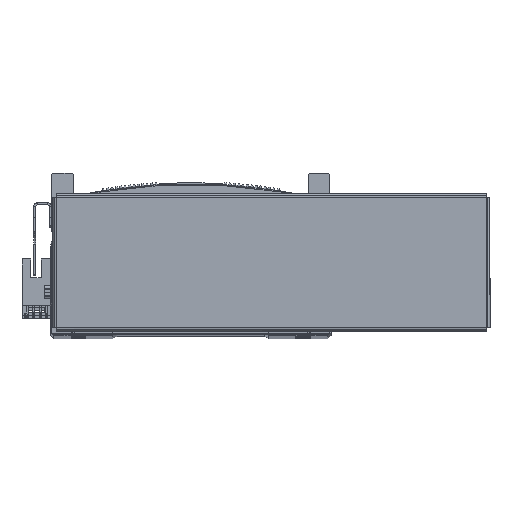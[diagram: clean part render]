
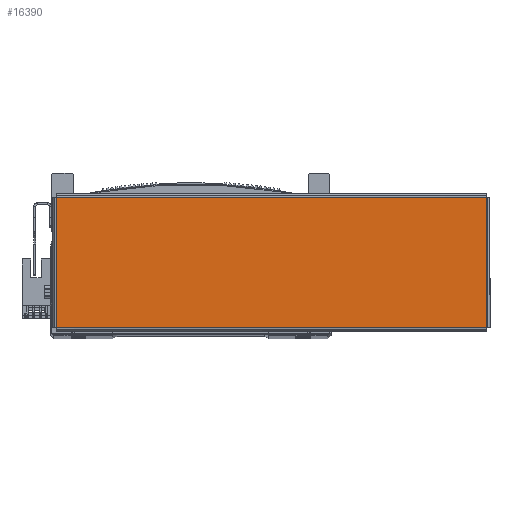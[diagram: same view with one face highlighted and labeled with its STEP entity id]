
A CAD part, top view. The second image highlights one B-rep face of the part: STEP entity #16390.
In plain terms, the highlighted planar face has unit normal (0, 0, 1) as drawn and (0, -1, 0) by its records, which use the part's own axes.
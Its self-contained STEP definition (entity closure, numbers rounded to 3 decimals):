
#522 = CARTESIAN_POINT ( 'NONE',  ( 103.513, -1., 31.363 ) ) ;
#528 = CARTESIAN_POINT ( 'NONE',  ( -103.513, -1., 31.363 ) ) ;
#535 = CARTESIAN_POINT ( 'NONE',  ( 103.513, -1., -31.363 ) ) ;
#550 = CARTESIAN_POINT ( 'NONE',  ( -103.513, -1., -31.363 ) ) ;
#14197 = EDGE_CURVE ( 'NONE', #61399, #61471, #39600, .T. ) ;
#14216 = EDGE_CURVE ( 'NONE', #61397, #61469, #39577, .T. ) ;
#14218 = EDGE_CURVE ( 'NONE', #61471, #61397, #39740, .T. ) ;
#14231 = EDGE_CURVE ( 'NONE', #61469, #61399, #39707, .T. ) ;
#16390 = ADVANCED_FACE ( 'NONE', ( #23781 ), #31383, .F. ) ;
#23781 = FACE_OUTER_BOUND ( 'NONE', #53335, .T. ) ;
#31383 = PLANE ( 'NONE',  #68461 ) ;
#31385 = DIRECTION ( 'NONE',  ( 0., 1., 0. ) ) ;
#31390 = CARTESIAN_POINT ( 'NONE',  ( 0., -1., 0. ) ) ;
#31447 = DIRECTION ( 'NONE',  ( 0., 0., 1. ) ) ;
#36503 = ORIENTED_EDGE ( 'NONE', *, *, #14197, .T. ) ;
#36551 = ORIENTED_EDGE ( 'NONE', *, *, #14218, .T. ) ;
#36567 = ORIENTED_EDGE ( 'NONE', *, *, #14216, .T. ) ;
#36578 = ORIENTED_EDGE ( 'NONE', *, *, #14231, .T. ) ;
#39545 = VECTOR ( 'NONE', #66559, 1000. ) ;
#39577 = LINE ( 'NONE', #66603, #39683 ) ;
#39600 = LINE ( 'NONE', #66558, #39545 ) ;
#39683 = VECTOR ( 'NONE', #66615, 1000. ) ;
#39690 = VECTOR ( 'NONE', #66647, 1000. ) ;
#39707 = LINE ( 'NONE', #66624, #39721 ) ;
#39721 = VECTOR ( 'NONE', #66633, 1000. ) ;
#39740 = LINE ( 'NONE', #66627, #39690 ) ;
#53335 = EDGE_LOOP ( 'NONE', ( #36551, #36567, #36578, #36503 ) ) ;
#61397 = VERTEX_POINT ( 'NONE', #528 ) ;
#61399 = VERTEX_POINT ( 'NONE', #535 ) ;
#61469 = VERTEX_POINT ( 'NONE', #550 ) ;
#61471 = VERTEX_POINT ( 'NONE', #522 ) ;
#66558 = CARTESIAN_POINT ( 'NONE',  ( 103.513, -1., -31.393 ) ) ;
#66559 = DIRECTION ( 'NONE',  ( 0., 0., 1. ) ) ;
#66603 = CARTESIAN_POINT ( 'NONE',  ( -103.513, -1., 31.393 ) ) ;
#66615 = DIRECTION ( 'NONE',  ( 0., 0., -1. ) ) ;
#66624 = CARTESIAN_POINT ( 'NONE',  ( -103.543, -1., -31.363 ) ) ;
#66627 = CARTESIAN_POINT ( 'NONE',  ( 103.543, -1., 31.363 ) ) ;
#66633 = DIRECTION ( 'NONE',  ( 1., 0., 0. ) ) ;
#66647 = DIRECTION ( 'NONE',  ( -1., 0., 0. ) ) ;
#68461 = AXIS2_PLACEMENT_3D ( 'NONE', #31390, #31385, #31447 ) ;
